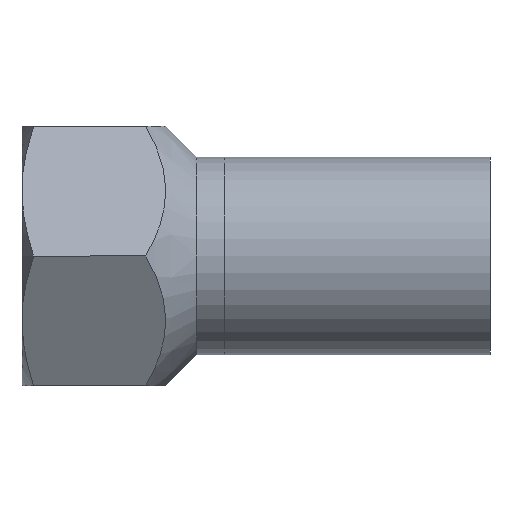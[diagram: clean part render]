
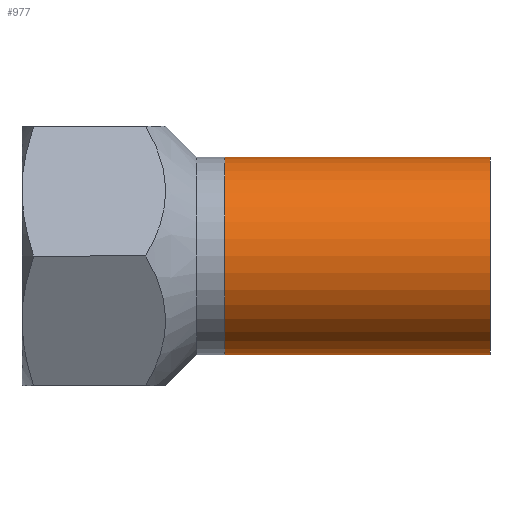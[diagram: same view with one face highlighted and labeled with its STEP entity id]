
A CAD part, front view. The second image highlights one B-rep face of the part: STEP entity #977.
In plain terms, the highlighted cylindrical face has radius 17.5 mm (diameter 35 mm), a partial arc.
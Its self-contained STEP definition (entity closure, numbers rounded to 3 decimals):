
#15 = DIRECTION ( 'NONE',  ( 1., 0., 0. ) ) ;
#17 = EDGE_CURVE ( 'NONE', #399, #680, #1054, .T. ) ;
#29 = EDGE_LOOP ( 'NONE', ( #217, #558, #324, #233 ) ) ;
#62 = FACE_OUTER_BOUND ( 'NONE', #29, .T. ) ;
#92 = CYLINDRICAL_SURFACE ( 'NONE', #345, 17.5 ) ;
#117 = CARTESIAN_POINT ( 'NONE',  ( 47., 0., 17.5 ) ) ;
#137 = EDGE_CURVE ( 'NONE', #680, #1202, #1083, .T. ) ;
#177 = CARTESIAN_POINT ( 'NONE',  ( 0., 0., 17.5 ) ) ;
#216 = DIRECTION ( 'NONE',  ( 0., 0., -1. ) ) ;
#217 = ORIENTED_EDGE ( 'NONE', *, *, #529, .F. ) ;
#233 = ORIENTED_EDGE ( 'NONE', *, *, #418, .F. ) ;
#324 = ORIENTED_EDGE ( 'NONE', *, *, #137, .T. ) ;
#336 = CARTESIAN_POINT ( 'NONE',  ( 0., 0., 0. ) ) ;
#345 = AXIS2_PLACEMENT_3D ( 'NONE', #336, #1034, #1251 ) ;
#399 = VERTEX_POINT ( 'NONE', #177 ) ;
#418 = EDGE_CURVE ( 'NONE', #638, #1202, #884, .T. ) ;
#459 = CARTESIAN_POINT ( 'NONE',  ( 47., 0., -17.5 ) ) ;
#479 = DIRECTION ( 'NONE',  ( 1., 0., 0. ) ) ;
#529 = EDGE_CURVE ( 'NONE', #399, #638, #536, .T. ) ;
#536 = LINE ( 'NONE', #787, #1166 ) ;
#558 = ORIENTED_EDGE ( 'NONE', *, *, #17, .T. ) ;
#583 = CARTESIAN_POINT ( 'NONE',  ( 47., 0., 0. ) ) ;
#638 = VERTEX_POINT ( 'NONE', #117 ) ;
#680 = VERTEX_POINT ( 'NONE', #1335 ) ;
#745 = AXIS2_PLACEMENT_3D ( 'NONE', #583, #479, #775 ) ;
#775 = DIRECTION ( 'NONE',  ( 0., 0., -1. ) ) ;
#779 = VECTOR ( 'NONE', #15, 1000. ) ;
#787 = CARTESIAN_POINT ( 'NONE',  ( 0., 0., 17.5 ) ) ;
#843 = CARTESIAN_POINT ( 'NONE',  ( 0., 0., -17.5 ) ) ;
#884 = CIRCLE ( 'NONE', #745, 17.5 ) ;
#917 = CARTESIAN_POINT ( 'NONE',  ( 0., 0., 0. ) ) ;
#977 = ADVANCED_FACE ( 'NONE', ( #62 ), #92, .T. ) ;
#1034 = DIRECTION ( 'NONE',  ( 1., 0., 0. ) ) ;
#1054 = CIRCLE ( 'NONE', #1249, 17.5 ) ;
#1083 = LINE ( 'NONE', #843, #779 ) ;
#1166 = VECTOR ( 'NONE', #1214, 1000. ) ;
#1202 = VERTEX_POINT ( 'NONE', #459 ) ;
#1214 = DIRECTION ( 'NONE',  ( 1., 0., 0. ) ) ;
#1249 = AXIS2_PLACEMENT_3D ( 'NONE', #917, #1331, #216 ) ;
#1251 = DIRECTION ( 'NONE',  ( 0., 0., -1. ) ) ;
#1331 = DIRECTION ( 'NONE',  ( 1., 0., 0. ) ) ;
#1335 = CARTESIAN_POINT ( 'NONE',  ( 0., 0., -17.5 ) ) ;
